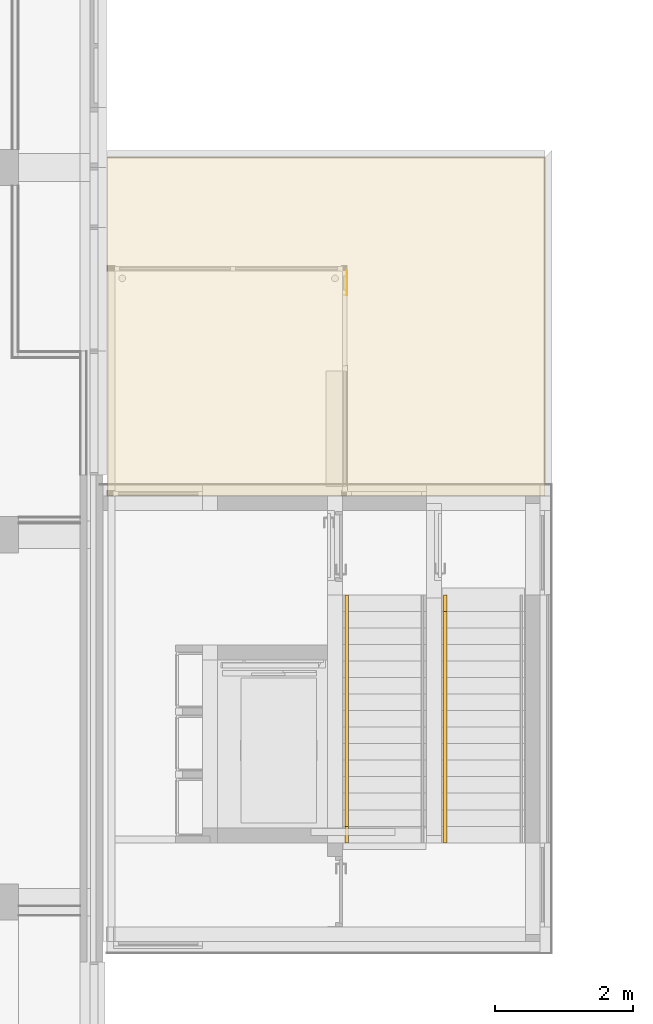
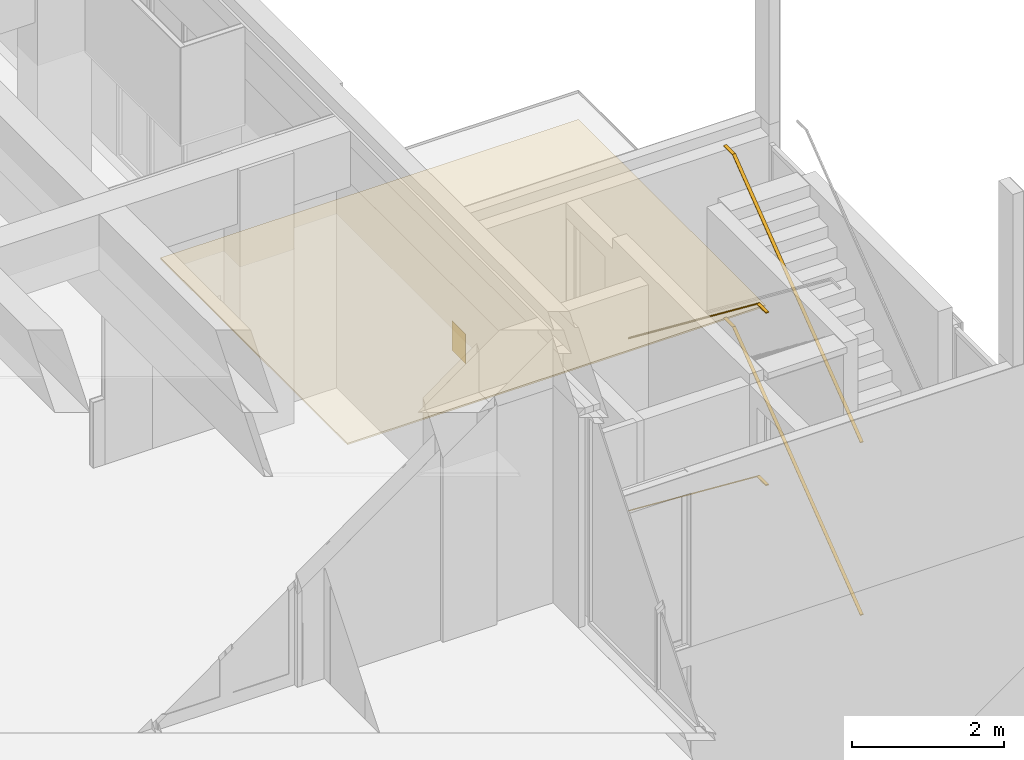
# One storey, part 93 of 117: 4 railings, 1 covering, 1 window, 4 elements without a shape of their own.
"""IFC2X3 building model written with IfcOpenShell, lengths in millimetres."""

import ifcopenshell
import ifcopenshell.guid

model = None  # the IFC model being written
_history = None  # IfcOwnerHistory: only IFC2X3 demands one
_inside = {}  # id of a spatial element -> (the spatial element, [elements in it])
_under = {}  # id of a project, library or spatial element -> (it, [spatial elements below it])
_declared = {}  # id of a project -> (the project, [libraries it declares])
_typed = {}  # id of a type object -> (the type object, [elements of that type])
_made_of = {}  # id of a material, layer set ... -> (it, [elements and type objects made of it])


def new_model(schema):
    """Start an empty IFC model of exactly this schema.

    Asked for "IFC4X3", IfcOpenShell would pick the latest addendum, in which some entities
    have other attributes; the version numbers below select the first issue.
    IFC2X3 requires an IfcOwnerHistory on every rooted entity: one is made here for all.
    """
    global model, _history
    if schema == "IFC4X3":
        model = ifcopenshell.file(schema_version=(4, 3, 0, 0))
    else:
        model = ifcopenshell.file(schema=schema)
    _inside.clear()
    _under.clear()
    _declared.clear()
    _typed.clear()
    _made_of.clear()
    _history = None
    if model.schema == "IFC2X3":
        org = make("IfcOrganization", Name="unknown")
        user = make(
            "IfcPersonAndOrganization",
            ThePerson=make("IfcPerson", FamilyName="unknown"),
            TheOrganization=org,
        )
        app = make(
            "IfcApplication",
            ApplicationDeveloper=org,
            Version="unknown",
            ApplicationFullName="unknown",
            ApplicationIdentifier="unknown",
        )
        _history = make(
            "IfcOwnerHistory",
            OwningUser=user,
            OwningApplication=app,
            ChangeAction="ADDED",
            CreationDate=0,
        )
    return model


def make(cls, **values):
    """One entity of the class cls with the attributes given. An attribute that is None is left unset."""
    return model.create_entity(
        cls, **{name: value for name, value in values.items() if value is not None}
    )


def entity(cls, *values):
    """Any entity or typed value of the class cls, its attributes in the order of the schema. None: left unset."""
    e = model.create_entity(cls)
    for i, value in enumerate(values):
        if value is not None:
            e[i] = value
    return e


def rooted(cls, **values):
    """An entity with a GlobalId (a new one), such as an element, a storey or a relation."""
    return make(cls, GlobalId=ifcopenshell.guid.new(), OwnerHistory=_history, **values)


def si_unit(unit_type, name, prefix=None):
    """IfcSIUnit, for example si_unit("LENGTHUNIT", "METRE", prefix="MILLI")."""
    return make("IfcSIUnit", UnitType=unit_type, Prefix=prefix, Name=name)


def converted_unit(unit_type, name, factor, base, dimensions=None, offset=None):
    """IfcConversionBasedUnit, such as the inch: factor (a typed value) times the base unit."""
    return make(
        "IfcConversionBasedUnit"
        if offset is None
        else "IfcConversionBasedUnitWithOffset",
        ConversionOffset=offset,
        Dimensions=None
        if dimensions is None
        else entity("IfcDimensionalExponents", *dimensions),
        UnitType=unit_type,
        Name=name,
        ConversionFactor=make(
            "IfcMeasureWithUnit", ValueComponent=factor, UnitComponent=base
        ),
    )


def derived_unit(unit_type, elements):
    """IfcDerivedUnit: a product of units, each with its exponent."""
    return make(
        "IfcDerivedUnit",
        Elements=[
            make("IfcDerivedUnitElement", Unit=unit, Exponent=power)
            for unit, power in elements
        ],
        UnitType=unit_type,
    )


def money_unit(currency):
    """IfcMonetaryUnit."""
    return make("IfcMonetaryUnit", Currency=currency)


def assignment(units):
    """IfcUnitAssignment: the units of a project."""
    return None if units is None else make("IfcUnitAssignment", Units=units)


def point(xyz):
    """IfcCartesianPoint."""
    return None if xyz is None else make("IfcCartesianPoint", Coordinates=xyz)


def direction(xyz):
    """IfcDirection."""
    return None if xyz is None else make("IfcDirection", DirectionRatios=xyz)


def frame(location, z_axis=None, x_axis=None):
    """IfcAxis2Placement3D, a coordinate frame: its origin and axes. An axis left out is left unset."""
    return make(
        "IfcAxis2Placement3D",
        Location=point(location),
        Axis=direction(z_axis),
        RefDirection=direction(x_axis),
    )


def origin_with_axes():
    """The frame at (0, 0, 0) with the z axis (0, 0, 1) and the x axis (1, 0, 0) written out."""
    return frame((0.0, 0.0, 0.0), z_axis=(0.0, 0.0, 1.0), x_axis=(1.0, 0.0, 0.0))


def place(relative_to, where):
    """IfcLocalPlacement: puts the frame where relative to a parent placement (None: the world)."""
    return make(
        "IfcLocalPlacement", PlacementRelTo=relative_to, RelativePlacement=where
    )


def context(
    kind, dimensions, precision=None, world=None, true_north=None, identifier=None
):
    """IfcGeometricRepresentationContext, for example the 3D "Model" context."""
    return make(
        "IfcGeometricRepresentationContext",
        ContextIdentifier=identifier,
        ContextType=kind,
        CoordinateSpaceDimension=dimensions,
        Precision=precision,
        WorldCoordinateSystem=world,
        TrueNorth=true_north,
    )


def subcontext(parent, identifier, kind, view, scale=None):
    """IfcGeometricRepresentationSubContext, for example "Body" below "Model"."""
    return make(
        "IfcGeometricRepresentationSubContext",
        ContextIdentifier=identifier,
        ContextType=kind,
        ParentContext=parent,
        TargetScale=scale,
        TargetView=view,
    )


def project(units=None, contexts=None):
    """IfcProject with its units and contexts."""
    return rooted(
        "IfcProject",
        Name="project",
        RepresentationContexts=contexts,
        UnitsInContext=assignment(units),
    )


def spatial(cls, under=None, at=None, **own):
    """A site, building, storey or space (cls), placed at a placement, below another one or the project."""
    s = rooted(cls, ObjectPlacement=at, **own)
    if under is not None:
        _under.setdefault(under.id(), (under, []))[1].append(s)
    return s


def faces_of(points, faces, orient=None, outer=None):
    """IfcFace entities. A face is a list of loops; a loop is a list of indices into points, from 0.

    orient and outer hold one flag for each loop. By default every Orientation is true, the
    first loop of a face is its IfcFaceOuterBound and the others are IfcFaceBound.
    """
    made = []
    for i, loops in enumerate(faces):
        bounds = []
        for j, loop in enumerate(loops):
            is_outer = j == 0 if outer is None else outer[i][j]
            bounds.append(
                make(
                    "IfcFaceOuterBound" if is_outer else "IfcFaceBound",
                    Bound=make("IfcPolyLoop", Polygon=[points[k] for k in loop]),
                    Orientation=True if orient is None else orient[i][j],
                )
            )
        made.append(make("IfcFace", Bounds=bounds))
    return made


def faceted_brep(points, faces, orient=None, outer=None, voids=None):
    """IfcFacetedBrep: a solid bounded by flat faces; with voids (closed shells), ...WithVoids."""
    shared = [point(p) for p in points]
    hull = make("IfcClosedShell", CfsFaces=faces_of(shared, faces, orient, outer))
    if voids is None:
        return make("IfcFacetedBrep", Outer=hull)
    return make(
        "IfcFacetedBrepWithVoids",
        Outer=hull,
        Voids=[
            make(cls, CfsFaces=faces_of(shared, fs, o, b)) for cls, fs, o, b in voids
        ],
    )


def shape(context_of_items, identifier, shape_type, items):
    """IfcShapeRepresentation: the items that make up one representation, for example the "Body"."""
    return make(
        "IfcShapeRepresentation",
        ContextOfItems=context_of_items,
        RepresentationIdentifier=identifier,
        RepresentationType=shape_type,
        Items=items,
    )


def source(mapping_origin, context_of_items, identifier, shape_type, items):
    """IfcRepresentationMap: a shape defined once, which mapped items show again and again."""
    return make(
        "IfcRepresentationMap",
        MappingOrigin=mapping_origin,
        MappedRepresentation=shape(context_of_items, identifier, shape_type, items),
    )


def transform(
    local_origin,
    x_axis=None,
    y_axis=None,
    z_axis=None,
    scale=None,
    scale2=None,
    scale3=None,
    uniform=True,
):
    """IfcCartesianTransformationOperator3D, or its non-uniform kind. x_axis, y_axis, z_axis: its Axis1, 2, 3."""
    if uniform:
        return make(
            "IfcCartesianTransformationOperator3D",
            Axis1=direction(x_axis),
            Axis2=direction(y_axis),
            LocalOrigin=point(local_origin),
            Scale=scale,
            Axis3=direction(z_axis),
        )
    return make(
        "IfcCartesianTransformationOperator3DnonUniform",
        Axis1=direction(x_axis),
        Axis2=direction(y_axis),
        LocalOrigin=point(local_origin),
        Scale=scale,
        Axis3=direction(z_axis),
        Scale2=scale2,
        Scale3=scale3,
    )


def mapped(mapping_source, mapping_target):
    """IfcMappedItem: shows the shape of a source again, moved by a transform."""
    return make(
        "IfcMappedItem", MappingSource=mapping_source, MappingTarget=mapping_target
    )


def material(Name=None, Category=None):
    """IfcMaterial."""
    return make("IfcMaterial", Name=Name, Category=Category)


def made_of(thing, what):
    """Note that an element or type object is made of a material, layer set ...; save() writes the relation."""
    if what is not None:
        _made_of.setdefault(what.id(), (what, []))[1].append(thing)
    return thing


def type_object(cls, material=None, **own):
    """A type object (cls), such as IfcWallType, which elements share."""
    return made_of(rooted(cls, **own), material)


def type_shapes(of_type, sources):
    """Give a type object the sources (RepresentationMaps) that its elements show as mapped items."""
    of_type.RepresentationMaps = sources


def element(
    cls,
    number,
    at=None,
    inside=None,
    cuts=None,
    type_object=None,
    material=None,
    context=None,
    identifier="Body",
    shape_type=None,
    held_by="IfcProductDefinitionShape",
    body=None,
    shapes=None,
    **own,
):
    """One element of the class cls, such as IfcWall. Its Tag is "e" and its number.

    at: its placement. inside: the storey or other place that contains it. cuts: it is an
    opening in that element (IfcRelVoidsElement). A single representation is given by context,
    identifier, shape_type and body (its items); several are given by shapes. held_by: the class
    of the entity that holds the representations. save() writes the other relations.
    """
    e = rooted(cls, Tag="e%d" % number, ObjectPlacement=at, **own)
    if body is not None:
        shapes = [shape(context, identifier, shape_type, body)]
    if shapes is not None:
        e.Representation = make(held_by, Representations=shapes)
    if inside is not None:
        _inside.setdefault(inside.id(), (inside, []))[1].append(e)
    if cuts is not None:
        rooted(
            "IfcRelVoidsElement", RelatingBuildingElement=cuts, RelatedOpeningElement=e
        )
    if type_object is not None:
        _typed.setdefault(type_object.id(), (type_object, []))[1].append(e)
    return made_of(e, material)


def aggregate(whole, parts):
    """IfcRelAggregates: a whole, such as a stair, and the parts it consists of."""
    return rooted("IfcRelAggregates", RelatingObject=whole, RelatedObjects=parts)


def save(model, path):
    """Write the relations noted so far, then the file.

    IfcRelAggregates (storeys below a building ...), IfcRelContainedInSpatialStructure (elements
    in a storey), IfcRelDefinesByType, IfcRelAssociatesMaterial and IfcRelDeclares: one each for
    every whole, place, type object, material and project.
    """
    for whole, parts in _under.values():
        aggregate(whole, parts)
    for where, things in _inside.values():
        rooted(
            "IfcRelContainedInSpatialStructure",
            RelatedElements=things,
            RelatingStructure=where,
        )
    for kind, things in _typed.values():
        rooted("IfcRelDefinesByType", RelatedObjects=things, RelatingType=kind)
    for what, things in _made_of.values():
        rooted("IfcRelAssociatesMaterial", RelatedObjects=things, RelatingMaterial=what)
    for by, libraries in _declared.values():
        rooted("IfcRelDeclares", RelatingContext=by, RelatedDefinitions=libraries)
    model.write(path)


model = new_model("IFC2X3")

# Units and contexts
model_context = context("Model", 3, precision=0.01, world=origin_with_axes(), true_north=direction((0.0, 1.0)))
body_context = subcontext(model_context, "Body", "Model", "MODEL_VIEW")
ifc_project = project(units=[si_unit("LENGTHUNIT", "METRE", prefix="MILLI"), si_unit("AREAUNIT", "SQUARE_METRE"), si_unit("VOLUMEUNIT", "CUBIC_METRE"), converted_unit("PLANEANGLEUNIT", "DEGREE", entity("IfcPlaneAngleMeasure", 0.0174532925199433), si_unit("PLANEANGLEUNIT", "RADIAN"), dimensions=[0, 0, 0, 0, 0, 0, 0]), money_unit("EUR"), converted_unit("TIMEUNIT", "Year", entity("IfcTimeMeasure", 31557600.0), si_unit("TIMEUNIT", "SECOND"), dimensions=[0, 0, 1, 0, 0, 0, 0]), si_unit("MASSUNIT", "GRAM", prefix="KILO"), si_unit("THERMODYNAMICTEMPERATUREUNIT", "DEGREE_CELSIUS"), si_unit("LUMINOUSINTENSITYUNIT", "LUMEN"), si_unit("ENERGYUNIT", "JOULE", prefix="MEGA"), derived_unit("THERMALCONDUCTANCEUNIT", [(si_unit("POWERUNIT", "WATT"), 1), (si_unit("LENGTHUNIT", "METRE"), -1), (si_unit("THERMODYNAMICTEMPERATUREUNIT", "KELVIN"), -1)]), derived_unit("SPECIFICHEATCAPACITYUNIT", [(si_unit("ENERGYUNIT", "JOULE"), 1), (si_unit("MASSUNIT", "GRAM", prefix="KILO"), -1), (si_unit("THERMODYNAMICTEMPERATUREUNIT", "KELVIN"), -1)]), derived_unit("MASSDENSITYUNIT", [(si_unit("MASSUNIT", "GRAM", prefix="KILO"), 1), (si_unit("VOLUMEUNIT", "CUBIC_METRE"), -1)])], contexts=[model_context])

# Site, building, storey
site_placement = place(None, origin_with_axes())
site = spatial("IfcSite", under=ifc_project, at=site_placement, Name="Site", CompositionType="ELEMENT")
building_placement = place(site_placement, origin_with_axes())
building = spatial("IfcBuilding", under=site, at=building_placement, Name="Naam gebouw", CompositionType="ELEMENT")
storey_placement = place(building_placement, frame((0.0, 0.0, 4150.0), z_axis=(0.0, 0.0, 1.0), x_axis=(1.0, 0.0, 0.0)))
storey = spatial("IfcBuildingStorey", under=building, at=storey_placement, Name="1e verdieping N", CompositionType="ELEMENT", Elevation=4150.0)

# Window
ifc_material_1 = material(Name="Aluminum geanodiseerd RAL 7024")
window_style = type_object("IfcWindowStyle", Name="RVS plaat1:RVS plaat", ConstructionType="NOTDEFINED", OperationType="NOTDEFINED", ParameterTakesPrecedence=False, Sizeable=False)
window_placement = place(storey_placement, frame((13995.49999879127, 44226.77662654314, 0.0), z_axis=(0.0, 0.0, 1.0), x_axis=(1.0, 0.0, 0.0)))
element("IfcWindow", 1, at=window_placement, inside=storey, type_object=window_style, material=ifc_material_1, Name="RVS plaat1:RVS plaat", ObjectType="WINDOW", context=body_context, shape_type="Brep", body=[
    faceted_brep([(19787.50000128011, -2132.164200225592, -2981.666666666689), (19787.50000128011, -1782.364200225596, -2981.666666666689), (19787.50000128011, -1782.364200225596, -2502.166666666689), (19787.50000128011, -2132.164200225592, -2502.166666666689), (19782.50000128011, -2132.164200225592, -2981.666666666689), (19782.50000128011, -1782.364200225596, -2981.666666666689), (19782.50000128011, -1782.364200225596, -2502.166666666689), (19782.50000128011, -2132.164200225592, -2502.166666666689)], [[[0, 1, 2, 3]], [[0, 4, 5, 1]], [[1, 5, 6, 2]], [[3, 2, 6, 7]], [[4, 0, 3, 7]], [[5, 4, 7, 6]]]),
])

# Stair, railing
stair_1_placement = place(storey_placement, frame((0.0, 0.0, -4150.0), z_axis=(0.0, 0.0, 1.0), x_axis=(1.0, 0.0, 0.0)))
stair_1 = element("IfcStair", 2, at=stair_1_placement, inside=storey, Name="Precast Stair:Stair", ObjectType="Precast Stair:24_trap - prefab", ShapeType="NOTDEFINED")
ifc_material_2 = material(Name="baluster_staal")
railing_type = type_object("IfcRailingType", Name="Railing:44_3B_leuning - staal 50x10mm", PredefinedType="NOTDEFINED")
shared_shape = source(origin_with_axes(), body_context, "Body", "Brep", [
    faceted_brep([(3600.0, 50.0, 12.61762558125), (3600.0, 0.0, 12.61762558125), (3600.0, 0.0, 0.0), (3600.0, 50.0, 0.0), (240.0, 50.0, 2597.95095891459), (240.0, 0.0, 2597.95095891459), (236.5980317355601, 0.0, 2587.95095891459), (236.5980317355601, 50.0, 2587.95095891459), (0.0, 50.0, 2597.95095891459), (0.0, 0.0, 2597.95095891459), (0.0, 0.0, 2587.95095891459), (0.0, 50.0, 2587.95095891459)], [[[0, 1, 2, 3]], [[1, 0, 4, 5]], [[2, 1, 5, 6]], [[3, 2, 6, 7]], [[0, 3, 7, 4]], [[5, 4, 8, 9]], [[6, 5, 9, 10]], [[7, 6, 10, 11]], [[4, 7, 11, 8]], [[8, 11, 10, 9]]]),
])
type_shapes(railing_type, [shared_shape])
railing_1_placement = place(stair_1_placement, frame((33798.00000006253, 34145.91242629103, 1452.049041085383), z_axis=(0.0, 0.0, 1.0), x_axis=(0.0, 1.0, 0.0)))
railing_1 = element("IfcRailing", 3, at=railing_1_placement, type_object=railing_type, material=ifc_material_2, Name="Railing:44_3B_leuning - staal 50x10mm", PredefinedType="NOTDEFINED", context=body_context, shape_type="MappedRepresentation", body=[
    mapped(shared_shape, transform((0.0, 0.0, 0.0))),
])
aggregate(stair_1, [railing_1])

stair_2_placement = place(storey_placement, frame((0.0, 0.0, -4150.0), z_axis=(0.0, 0.0, 1.0), x_axis=(1.0, 0.0, 0.0)))
stair_2 = element("IfcStair", 4, at=stair_2_placement, inside=storey, Name="Precast Stair:Stair", ObjectType="Precast Stair:24_trap - prefab", ShapeType="NOTDEFINED")
railing_2_placement = place(stair_2_placement, frame((33798.00000006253, 34145.91242629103, 4222.049041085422), z_axis=(0.0, 0.0, 1.0), x_axis=(0.0, 1.0, 0.0)))
railing_2 = element("IfcRailing", 5, at=railing_2_placement, type_object=railing_type, material=ifc_material_2, Name="Railing:44_3B_leuning - staal 50x10mm", PredefinedType="NOTDEFINED", context=body_context, shape_type="MappedRepresentation", body=[
    mapped(shared_shape, transform((0.0, 0.0, 0.0))),
])
aggregate(stair_2, [railing_2])

# Covering
ifc_material_3 = material(Name="IFC Building Material")
covering_type = type_object("IfcCoveringType", Name="Compound Ceiling:47_3B_plafond gips 2 platen", PredefinedType="CEILING")
covering_placement = place(storey_placement, frame((28651.00001269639, 22625.91242505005, -4150.000000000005), z_axis=(0.0, 0.0, 1.0), x_axis=(0.0, 1.0, 0.0)))
element("IfcCovering", 6, at=covering_placement, inside=storey, type_object=covering_type, material=ifc_material_3, Name="Compound Ceiling:47_3B_plafond gips 2 platen", PredefinedType="CEILING", context=body_context, shape_type="Brep", body=[
    faceted_brep([(16554.00000127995, -7999.99998734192, 2850.0), (21470.00000128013, -7999.99998734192, 2850.0), (21470.00000128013, -7999.99998734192, 2875.0), (16554.00000127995, -7999.99998734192, 2875.0), (16554.00000127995, -1652.69998795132, 2850.0), (21470.00000128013, -1652.69998795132, 2850.0), (21470.00000128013, -1652.69998795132, 2875.0), (16554.00000127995, -1652.69998795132, 2875.0)], [[[0, 1, 2, 3]], [[0, 4, 5, 1]], [[1, 5, 6, 2]], [[3, 2, 6, 7]], [[4, 0, 3, 7]], [[5, 4, 7, 6]]]),
])

# Stair, railing
stair_3_placement = place(storey_placement, frame((0.0, 0.0, -4150.0), z_axis=(0.0, 0.0, 1.0), x_axis=(1.0, 0.0, 0.0)))
stair_3 = element("IfcStair", 7, at=stair_3_placement, inside=storey, Name="Precast Stair:Stair", ObjectType="Precast Stair:24_trap - prefab", ShapeType="NOTDEFINED")
railing_3_placement = place(stair_3_placement, frame((35232.0000000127, 34145.91242629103, 4222.049041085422), z_axis=(0.0, 0.0, 1.0), x_axis=(0.0, 1.0, 0.0)))
railing_3 = element("IfcRailing", 8, at=railing_3_placement, type_object=railing_type, material=ifc_material_2, Name="Railing:44_3B_leuning - staal 50x10mm", PredefinedType="NOTDEFINED", context=body_context, shape_type="Brep", body=[
    faceted_brep([(0.0, 50.0, 12.61762558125), (0.0, 50.0, 0.0), (0.0, 0.0, 0.0), (0.0, 0.0, 12.61762558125), (3360.0, 50.0, 2597.95095891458), (3363.40196826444, 50.0, 2587.95095891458), (3363.40196826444, 0.0, 2587.95095891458), (3360.0, 0.0, 2597.95095891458), (3600.0, 50.0, 2597.95095891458), (3600.0, 50.0, 2587.95095891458), (3600.0, 0.0, 2587.95095891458), (3600.0, 0.0, 2597.95095891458)], [[[0, 1, 2, 3]], [[1, 0, 4, 5]], [[2, 1, 5, 6]], [[3, 2, 6, 7]], [[0, 3, 7, 4]], [[5, 4, 8, 9]], [[6, 5, 9, 10]], [[7, 6, 10, 11]], [[4, 7, 11, 8]], [[8, 11, 10, 9]]]),
])
aggregate(stair_3, [railing_3])

stair_4_placement = place(storey_placement, frame((0.0, 0.0, -4150.0), z_axis=(0.0, 0.0, 1.0), x_axis=(1.0, 0.0, 0.0)))
stair_4 = element("IfcStair", 9, at=stair_4_placement, inside=storey, Name="Precast Stair:Stair", ObjectType="Precast Stair:24_trap - prefab", ShapeType="NOTDEFINED")
railing_4_placement = place(stair_4_placement, frame((35232.0000000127, 34145.91242629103, 1452.049041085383), z_axis=(0.0, 0.0, 1.0), x_axis=(0.0, 1.0, 0.0)))
railing_4 = element("IfcRailing", 10, at=railing_4_placement, type_object=railing_type, material=ifc_material_2, Name="Railing:44_3B_leuning - staal 50x10mm", PredefinedType="NOTDEFINED", context=body_context, shape_type="Brep", body=[
    faceted_brep([(0.0, 50.0, 12.61762558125), (0.0, 50.0, 0.0), (0.0, 0.0, 0.0), (0.0, 0.0, 12.61762558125), (3360.0, 50.0, 2597.95095891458), (3363.40196826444, 50.0, 2587.95095891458), (3363.40196826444, 0.0, 2587.95095891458), (3360.0, 0.0, 2597.95095891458), (3600.0, 50.0, 2597.95095891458), (3600.0, 50.0, 2587.95095891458), (3600.0, 0.0, 2587.95095891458), (3600.0, 0.0, 2597.95095891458)], [[[0, 1, 2, 3]], [[1, 0, 4, 5]], [[2, 1, 5, 6]], [[3, 2, 6, 7]], [[0, 3, 7, 4]], [[5, 4, 8, 9]], [[6, 5, 9, 10]], [[7, 6, 10, 11]], [[4, 7, 11, 8]], [[8, 11, 10, 9]]]),
])
aggregate(stair_4, [railing_4])

save(model, "model.ifc")
